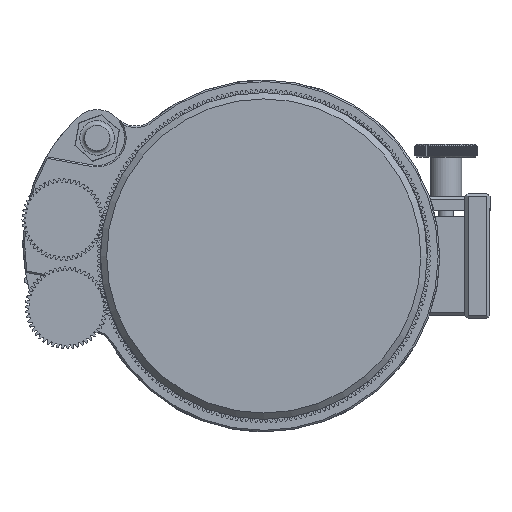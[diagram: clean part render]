
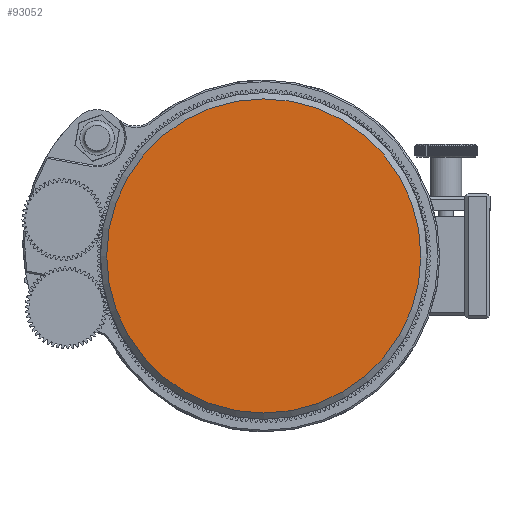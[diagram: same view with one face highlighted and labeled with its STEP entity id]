
A CAD part, left-side view. The second image highlights one B-rep face of the part: STEP entity #93052.
In plain terms, the highlighted planar face has unit normal (-1, 0, 0).
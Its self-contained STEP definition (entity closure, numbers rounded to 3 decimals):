
#93016=CARTESIAN_POINT('',(-173.682,50.,0.));
#93017=VERTEX_POINT('',#93016);
#93018=CARTESIAN_POINT('',(-173.682,0.,0.));
#93019=DIRECTION('',(1.0,0.0,0.0));
#93020=DIRECTION('',(0.0,-1.0,0.0));
#93021=AXIS2_PLACEMENT_3D('',#93018,#93019,#93020);
#93022=CIRCLE('',#93021,50.);
#93023=EDGE_CURVE('',#93017,#93017,#93022,.T.);
#93044=CARTESIAN_POINT('',(-173.682,49.75,0.));
#93045=DIRECTION('',(-1.0,0.0,0.0));
#93046=DIRECTION('',(0.0,0.0,-1.0));
#93047=AXIS2_PLACEMENT_3D('',#93044,#93045,#93046);
#93048=PLANE('',#93047);
#93049=ORIENTED_EDGE('',*,*,#93023,.F.);
#93050=EDGE_LOOP('',(#93049));
#93051=FACE_OUTER_BOUND('',#93050,.T.);
#93052=ADVANCED_FACE('',(#93051),#93048,.T.);
